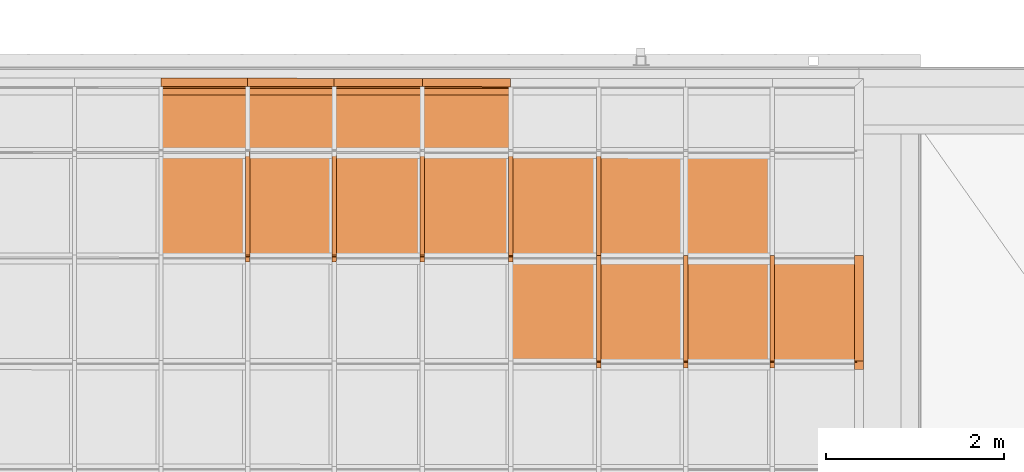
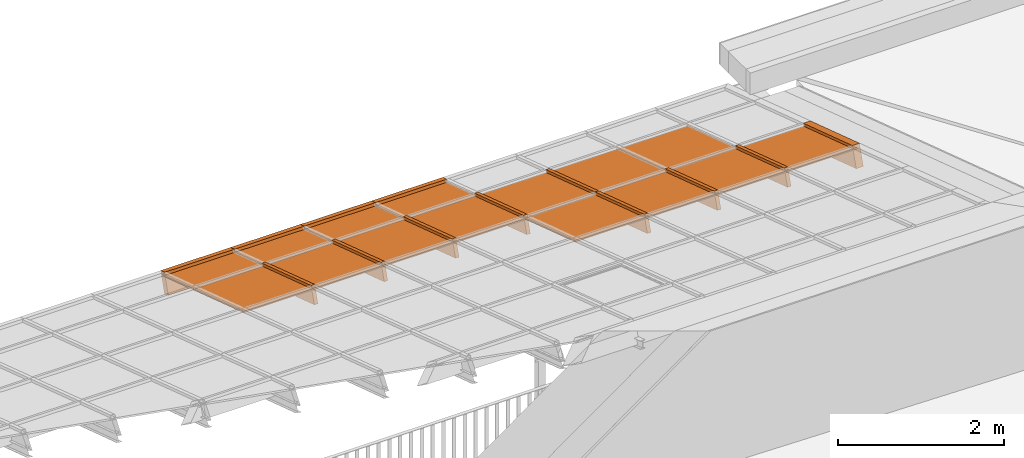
# One storey, part 39 of 47: 28 proxies, 1 element without a shape of its own.
"""IFC2X3 building model written with IfcOpenShell, lengths in millimetres."""

from ifc_helpers import new_model, entity, si_unit, converted_unit, derived_unit, money_unit, direction, frame, origin_with_axes, place, context, subcontext, project, spatial, polyline, outline, extrude, material, material_list, type_object, element, aggregate, save


model = new_model("IFC2X3")

# Units and contexts
model_context = context("Model", 3, precision=1e-05, world=origin_with_axes(), true_north=direction((0.0, 1.0)))
body_context = subcontext(model_context, "Body", "Model", "MODEL_VIEW")
ifc_project = project(units=[si_unit("LENGTHUNIT", "METRE", prefix="MILLI"), si_unit("AREAUNIT", "SQUARE_METRE"), si_unit("VOLUMEUNIT", "CUBIC_METRE"), converted_unit("PLANEANGLEUNIT", "DEGREE", entity("IfcPlaneAngleMeasure", 0.0174532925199), si_unit("PLANEANGLEUNIT", "RADIAN"), dimensions=[0, 0, 0, 0, 0, 0, 0]), si_unit("SOLIDANGLEUNIT", "STERADIAN"), money_unit("EUR"), converted_unit("TIMEUNIT", "Year", entity("IfcTimeMeasure", 31556926.0), si_unit("TIMEUNIT", "SECOND"), dimensions=[0, 0, 1, 0, 0, 0, 0]), si_unit("MASSUNIT", "GRAM", prefix="KILO"), si_unit("THERMODYNAMICTEMPERATUREUNIT", "DEGREE_CELSIUS"), si_unit("LUMINOUSINTENSITYUNIT", "LUMEN"), si_unit("ENERGYUNIT", "JOULE", prefix="MEGA"), derived_unit("THERMALCONDUCTANCEUNIT", [(si_unit("POWERUNIT", "WATT"), 1), (si_unit("LENGTHUNIT", "METRE"), -1), (si_unit("THERMODYNAMICTEMPERATUREUNIT", "KELVIN"), -1)]), derived_unit("SPECIFICHEATCAPACITYUNIT", [(si_unit("ENERGYUNIT", "JOULE"), 1), (si_unit("MASSUNIT", "GRAM", prefix="KILO"), -1), (si_unit("THERMODYNAMICTEMPERATUREUNIT", "KELVIN"), -1)]), derived_unit("MASSDENSITYUNIT", [(si_unit("MASSUNIT", "GRAM", prefix="KILO"), 1), (si_unit("VOLUMEUNIT", "CUBIC_METRE"), -1)])], contexts=[model_context])

# Site, building, storey
site_placement = place(None, origin_with_axes())
site = spatial("IfcSite", under=ifc_project, at=site_placement, Name="Site", CompositionType="ELEMENT")
building_placement = place(site_placement, origin_with_axes())
building = spatial("IfcBuilding", under=site, at=building_placement, Name="Building", CompositionType="ELEMENT")
storey_placement = place(building_placement, frame((0.0, 0.0, 6000.0), z_axis=(0.0, 0.0, 1.0), x_axis=(1.0, 0.0, 0.0)))
storey = spatial("IfcBuildingStorey", under=building, at=storey_placement, Name="KATUSEPLAAN", CompositionType="ELEMENT", Elevation=6000.0)

# Curtain wall, proxies
curtain_wall_type = type_object("IfcCurtainWallType", Name="KK-2", PredefinedType="NOTDEFINED")
curtain_wall_placement = place(storey_placement, frame((71638.1505463, 41358.6055567, 722.550081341), z_axis=(0.0, 0.0, 1.0), x_axis=(1.0, 0.0, 0.0)))
curtain_wall = element("IfcCurtainWall", 1, at=curtain_wall_placement, inside=storey, type_object=curtain_wall_type, Name="Talveaja klaaskatus")
ifc_material_1 = material(Name="Klaas")
building_element_proxy_type_1 = type_object("IfcBuildingElementProxyType", Name="Panel-Dist-163", PredefinedType="NOTDEFINED")
proxy_1_placement = place(curtain_wall_placement, frame((8827.49625898, 4630.47477661, 449.668691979), z_axis=(0.0, 0.0, 1.0), x_axis=(-0.999995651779, 0.00294896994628, 0.0)))
proxy_1 = element("IfcBuildingElementProxy", 2, at=proxy_1_placement, type_object=building_element_proxy_type_1, material=ifc_material_1, Name="Klaas;  Objekti nimi: Built-in CW Panel", context=body_context, shape_type="SweptSolid", body=[
    extrude(outline(polyline([(484.733112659, -631.360496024), (484.747111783, -626.360513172), (489.747075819, -626.374531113), (493.249058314, 623.620579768), (488.249075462, 623.634578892), (488.263093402, 628.634561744), (-484.733080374, 631.360496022), (-484.747098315, 626.360513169), (-489.747081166, 626.374512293), (-493.249044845, -623.62057977), (-488.249061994, -623.634578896), (-488.263079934, -628.634561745), (484.733112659, -631.360496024)])), frame((0.0, -3.12191252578, 9.50019274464), z_axis=(0.0, 0.312191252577, -0.950019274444), x_axis=(1.0, 0.0, 0.0)), (0.0, 0.0, 1.0), 20.0000000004),
])
building_element_proxy_type_2 = type_object("IfcBuildingElementProxyType", Name="Panel-Main-132", PredefinedType="NOTDEFINED")
proxy_2_placement = place(curtain_wall_placement, frame((9800.49584663, 4630.19512138, 448.817678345), z_axis=(0.0, 0.0, 1.0), x_axis=(-0.999995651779, 0.00294896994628, 0.0)))
proxy_2 = element("IfcBuildingElementProxy", 3, at=proxy_2_placement, type_object=building_element_proxy_type_2, material=ifc_material_1, Name="Klaas;  Objekti nimi: Built-in CW Panel", context=body_context, shape_type="SweptSolid", body=[
    extrude(outline(polyline([(484.733112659, -631.360496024), (484.747111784, -626.360513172), (489.74707582, -626.374531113), (493.249058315, 623.620579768), (488.249075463, 623.634578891), (488.263093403, 628.634561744), (-484.733080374, 631.360496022), (-484.747098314, 626.360513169), (-489.747081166, 626.374512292), (-493.249044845, -623.620579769), (-488.249061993, -623.634578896), (-488.263079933, -628.634561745), (484.733112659, -631.360496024)])), frame((1.13686837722e-10, -3.12191252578, 9.50019274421), z_axis=(0.0, 0.312191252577, -0.950019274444), x_axis=(1.0, 0.0, 0.0)), (0.0, 0.0, 1.0), 20.0000000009),
])
building_element_proxy_type_3 = type_object("IfcBuildingElementProxyType", Name="Panel-Dist-164", PredefinedType="NOTDEFINED")
proxy_3_placement = place(curtain_wall_placement, frame((10783.49543, 4629.912592, 447.957918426), z_axis=(0.0, 0.0, 1.0), x_axis=(-0.999995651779, 0.00294896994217, 0.0)))
proxy_3 = element("IfcBuildingElementProxy", 4, at=proxy_3_placement, type_object=building_element_proxy_type_3, material=ifc_material_1, Name="Klaas;  Objekti nimi: Built-in CW Panel", context=body_context, shape_type="SweptSolid", body=[
    extrude(outline(polyline([(494.733053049, -631.388511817), (494.747071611, -626.388532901), (499.747050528, -626.402532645), (503.249019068, 623.592554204), (498.24904015, 623.60655395), (498.263039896, 628.606551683), (-494.733077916, 631.388511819), (-494.747077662, 626.3885329), (-499.747037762, 626.402532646), (-503.249025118, -623.592554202), (-498.249046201, -623.606553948), (-498.263045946, -628.606551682), (494.733053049, -631.388511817)])), frame((0.0, -3.12191252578, 9.50019274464), z_axis=(0.0, 0.312191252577, -0.950019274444), x_axis=(1.0, 0.0, 0.0)), (0.0, 0.0, 1.0), 20.0000000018),
])
building_element_proxy_type_4 = type_object("IfcBuildingElementProxyType", Name="Panel-Main-133", PredefinedType="NOTDEFINED")
proxy_4_placement = place(curtain_wall_placement, frame((11776.4950092, 4629.62718846, 447.089412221), z_axis=(0.0, 0.0, 1.0), x_axis=(-0.999995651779, 0.00294896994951, 0.0)))
proxy_4 = element("IfcBuildingElementProxy", 5, at=proxy_4_placement, type_object=building_element_proxy_type_4, material=ifc_material_1, Name="Klaas;  Objekti nimi: Built-in CW Panel", context=body_context, shape_type="SweptSolid", body=[
    extrude(outline(polyline([(494.733053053, -631.388511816), (494.747071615, -626.3885329), (499.747050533, -626.402532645), (503.249019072, 623.592554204), (498.249040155, 623.606553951), (498.2630399, 628.606551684), (-494.733077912, 631.388511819), (-494.747077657, 626.388532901), (-499.747037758, 626.402532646), (-503.249025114, -623.592554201), (-498.249046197, -623.606553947), (-498.263045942, -628.606551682), (494.733053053, -631.388511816)])), frame((0.0, -3.12191252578, 9.50019274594), z_axis=(0.0, 0.312191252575, -0.950019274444), x_axis=(1.0, 0.0, 0.0)), (0.0, 0.0, 1.0), 20.0000000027),
])
building_element_proxy_type_5 = type_object("IfcBuildingElementProxyType", Name="Panel-Dist-165", PredefinedType="NOTDEFINED")
proxy_5_placement = place(curtain_wall_placement, frame((12769.4945884, 4629.34178493, 446.220906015), z_axis=(0.0, 0.0, 1.0), x_axis=(-0.999995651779, 0.00294896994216, 0.0)))
proxy_5 = element("IfcBuildingElementProxy", 6, at=proxy_5_placement, type_object=building_element_proxy_type_5, material=ifc_material_1, Name="Klaas;  Objekti nimi: Built-in CW Panel", context=body_context, shape_type="SweptSolid", body=[
    extrude(outline(polyline([(494.733053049, -631.388511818), (494.747071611, -626.388532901), (499.747050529, -626.402532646), (503.249019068, 623.592554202), (498.249040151, 623.606553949), (498.263039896, 628.606551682), (-494.733077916, 631.388511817), (-494.747077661, 626.388532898), (-499.747037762, 626.402532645), (-503.249025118, -623.592554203), (-498.249046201, -623.606553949), (-498.263045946, -628.606551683), (494.733053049, -631.388511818)])), frame((1.13686837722e-10, -3.12191252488, 9.50019274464), z_axis=(0.0, 0.312191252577, -0.950019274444), x_axis=(1.0, 0.0, 0.0)), (0.0, 0.0, 1.0), 20.0000000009),
])
building_element_proxy_type_6 = type_object("IfcBuildingElementProxyType", Name="Panel-Main-134", PredefinedType="NOTDEFINED")
proxy_6_placement = place(curtain_wall_placement, frame((13753.9941712, 4629.05882442, 445.359834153), z_axis=(0.0, 0.0, 1.0), x_axis=(-0.999995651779, 0.00294896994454, 0.0)))
proxy_6 = element("IfcBuildingElementProxy", 7, at=proxy_6_placement, type_object=building_element_proxy_type_6, material=ifc_material_1, Name="Klaas;  Objekti nimi: Built-in CW Panel", context=body_context, shape_type="SweptSolid", body=[
    extrude(outline(polyline([(486.233087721, -631.364698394), (486.247105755, -626.364719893), (491.247084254, -626.378719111), (494.749052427, 623.616376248), (489.749073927, 623.630375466), (489.763073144, 628.630353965), (-486.233095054, 631.364698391), (-486.247094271, 626.364719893), (-491.247091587, 626.37871911), (-494.749059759, -623.616376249), (-489.74908126, -623.630375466), (-489.763080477, -628.630353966), (486.233087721, -631.364698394)])), frame((1.13686837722e-10, -3.12191252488, 9.50019274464), z_axis=(0.0, 0.312191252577, -0.950019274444), x_axis=(1.0, 0.0, 0.0)), (0.0, 0.0, 1.0), 20.0000000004),
])
building_element_proxy_type_7 = type_object("IfcBuildingElementProxyType", Name="Panel-Dist-179", PredefinedType="NOTDEFINED")
proxy_7_placement = place(curtain_wall_placement, frame((14729.9937576, 4628.77830695, 444.506196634), z_axis=(0.0, 0.0, 1.0), x_axis=(-0.999995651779, 0.00294896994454, 0.0)))
proxy_7 = element("IfcBuildingElementProxy", 8, at=proxy_7_placement, type_object=building_element_proxy_type_7, material=ifc_material_1, Name="Klaas;  Objekti nimi: Built-in CW Panel", context=body_context, shape_type="SweptSolid", body=[
    extrude(outline(polyline([(486.233087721, -631.364698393), (486.247105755, -626.364719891), (491.247084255, -626.378719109), (494.749052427, 623.61637625), (489.749073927, 623.630375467), (489.763073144, 628.630353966), (-486.233095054, 631.364698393), (-486.247094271, 626.364719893), (-491.247091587, 626.37871911), (-494.749059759, -623.616376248), (-489.749081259, -623.630375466), (-489.763080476, -628.630353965), (486.233087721, -631.364698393)])), frame((0.0, -3.12191252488, 9.50019274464), z_axis=(0.0, 0.312191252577, -0.950019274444), x_axis=(1.0, 0.0, 0.0)), (0.0, 0.0, 1.0), 20.0000000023),
])
building_element_proxy_type_8 = type_object("IfcBuildingElementProxyType", Name="Panel-Main-145", PredefinedType="NOTDEFINED")
proxy_8_placement = place(curtain_wall_placement, frame((12769.4945884, 3441.81718861, 836.45844027), z_axis=(0.0, 0.0, 1.0), x_axis=(-0.999995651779, 0.00294896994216, 0.0)))
proxy_8 = element("IfcBuildingElementProxy", 9, at=proxy_8_placement, type_object=building_element_proxy_type_8, material=ifc_material_1, Name="Klaas;  Objekti nimi: Built-in CW Panel", context=body_context, shape_type="SweptSolid", body=[
    extrude(outline(polyline([(494.733053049, -631.388511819), (494.747071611, -626.388532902), (499.747050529, -626.402532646), (503.249019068, 623.592554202), (498.249040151, 623.606553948), (498.263039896, 628.606551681), (-494.733077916, 631.388511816), (-494.747077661, 626.388532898), (-499.747037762, 626.402532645), (-503.249025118, -623.592554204), (-498.249046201, -623.606553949), (-498.263045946, -628.606551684), (494.733053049, -631.388511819)])), frame((1.13686837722e-10, -3.12191252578, 9.50019274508), z_axis=(0.0, 0.312191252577, -0.950019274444), x_axis=(1.0, 0.0, 0.0)), (0.0, 0.0, 1.0), 20.0000000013),
])
building_element_proxy_type_9 = type_object("IfcBuildingElementProxyType", Name="Panel-Dist-177", PredefinedType="NOTDEFINED")
proxy_9_placement = place(curtain_wall_placement, frame((13753.9941712, 3441.53422811, 835.597368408), z_axis=(0.0, 0.0, 1.0), x_axis=(-0.999995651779, 0.00294896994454, 0.0)))
proxy_9 = element("IfcBuildingElementProxy", 10, at=proxy_9_placement, type_object=building_element_proxy_type_9, material=ifc_material_1, Name="Klaas;  Objekti nimi: Built-in CW Panel", context=body_context, shape_type="SweptSolid", body=[
    extrude(outline(polyline([(486.233087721, -631.364698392), (486.247105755, -626.364719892), (491.247084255, -626.378719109), (494.749052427, 623.616376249), (489.749073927, 623.630375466), (489.763073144, 628.630353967), (-486.233095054, 631.364698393), (-486.247094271, 626.364719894), (-491.247091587, 626.378719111), (-494.749059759, -623.616376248), (-489.749081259, -623.630375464), (-489.763080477, -628.630353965), (486.233087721, -631.364698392)])), frame((1.13686837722e-10, -3.12191252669, 9.50019274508), z_axis=(0.0, 0.312191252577, -0.950019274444), x_axis=(1.0, 0.0, 0.0)), (0.0, 0.0, 1.0), 20.0000000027),
])
building_element_proxy_type_10 = type_object("IfcBuildingElementProxyType", Name="Panel-Main-146", PredefinedType="NOTDEFINED")
proxy_10_placement = place(curtain_wall_placement, frame((14729.9937576, 3441.25371063, 834.743730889), z_axis=(0.0, 0.0, 1.0), x_axis=(-0.999995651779, 0.00294896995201, 0.0)))
proxy_10 = element("IfcBuildingElementProxy", 11, at=proxy_10_placement, type_object=building_element_proxy_type_10, material=ifc_material_1, Name="Klaas;  Objekti nimi: Built-in CW Panel", context=body_context, shape_type="SweptSolid", body=[
    extrude(outline(polyline([(486.233087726, -631.364698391), (486.247105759, -626.364719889), (491.247084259, -626.378719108), (494.749052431, 623.616376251), (489.749073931, 623.630375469), (489.763073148, 628.630353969), (-486.23309505, 631.364698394), (-486.247094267, 626.364719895), (-491.247091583, 626.378719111), (-494.749059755, -623.616376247), (-489.749081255, -623.630375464), (-489.763080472, -628.630353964), (486.233087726, -631.364698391)])), frame((0.0, -3.12191252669, 9.50019274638), z_axis=(0.0, 0.312191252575, -0.950019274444), x_axis=(1.0, 0.0, 0.0)), (0.0, 0.0, 1.0), 20.0000000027),
])
building_element_proxy_type_11 = type_object("IfcBuildingElementProxyType", Name="Panel-Main-100", PredefinedType="NOTDEFINED")
proxy_11_placement = place(curtain_wall_placement, frame((15704.4933446, 3440.97362428, 833.891405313), z_axis=(0.0, 0.0, 1.0), x_axis=(-0.999995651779, 0.00294896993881, 0.0)))
proxy_11 = element("IfcBuildingElementProxy", 12, at=proxy_11_placement, type_object=building_element_proxy_type_11, material=ifc_material_1, Name="Klaas;  Objekti nimi: Built-in CW Panel", context=body_context, shape_type="SweptSolid", body=[
    extrude(outline(polyline([(484.733112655, -631.360496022), (484.747111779, -626.360513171), (489.747075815, -626.374531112), (493.24905831, 623.620579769), (488.249094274, 623.634578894), (488.263093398, 628.634561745), (-484.733080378, 631.360496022), (-484.747098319, 626.360513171), (-464.747166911, 626.304479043), (-468.24913059, -623.690613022), (-488.249061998, -623.634578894), (-488.263079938, -628.634561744), (484.733112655, -631.360496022)])), frame((0.0, -3.12191252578, 9.50019274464), z_axis=(0.0, 0.312191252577, -0.950019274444), x_axis=(1.0, 0.0, 0.0)), (0.0, 0.0, 1.0), 20.0000000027),
])
building_element_proxy_type_12 = type_object("IfcBuildingElementProxyType", Name="Panel-Main-116", PredefinedType="NOTDEFINED")
proxy_12_placement = place(curtain_wall_placement, frame((8827.49625898, 5601.74592937, 130.495126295), z_axis=(0.0, 0.0, 1.0), x_axis=(-0.999995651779, 0.00294896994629, 0.0)))
proxy_12 = element("IfcBuildingElementProxy", 13, at=proxy_12_placement, type_object=building_element_proxy_type_12, material=ifc_material_1, Name="Klaas;  Objekti nimi: Built-in CW Panel", context=body_context, shape_type="SweptSolid", body=[
    extrude(outline(polyline([(485.370822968, -403.730890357), (485.384828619, -398.730917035), (490.384801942, -398.744922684), (492.611333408, 395.990982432), (487.611360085, 396.004988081), (487.555322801, 376.005065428), (-485.440851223, 378.730999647), (-485.384828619, 398.730922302), (-490.384801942, 398.744927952), (-492.611333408, -395.990977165), (-487.611360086, -396.004982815), (-487.625365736, -401.004956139), (485.370822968, -403.730890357)])), frame((0.0, -3.12191252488, 9.50019274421), z_axis=(0.0, 0.312191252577, -0.950019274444), x_axis=(1.0, 0.0, 0.0)), (0.0, 0.0, 1.0), 20.0000000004),
])
building_element_proxy_type_13 = type_object("IfcBuildingElementProxyType", Name="Panel-Main-149", PredefinedType="NOTDEFINED")
proxy_13_placement = place(curtain_wall_placement, frame((10783.49543, 5601.18374476, 128.784352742), z_axis=(0.0, 0.0, 1.0), x_axis=(-0.999995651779, 0.00294896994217, 0.0)))
proxy_13 = element("IfcBuildingElementProxy", 14, at=proxy_13_placement, type_object=building_element_proxy_type_13, material=ifc_material_1, Name="Klaas;  Objekti nimi: Built-in CW Panel", context=body_context, shape_type="SweptSolid", body=[
    extrude(outline(polyline([(495.370776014, -403.758920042), (495.384796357, -398.758930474), (500.384770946, -398.772950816), (502.611294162, 395.962958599), (497.611319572, 395.976963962), (497.55528314, 375.977050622), (-495.440832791, 378.75899509), (-495.384796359, 398.758938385), (-500.38475597, 398.772943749), (-502.611294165, -395.962965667), (-497.611304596, -395.976971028), (-497.625324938, -400.976960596), (495.370776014, -403.758920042)])), frame((0.0, -3.12191252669, 9.50019274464), z_axis=(0.0, 0.312191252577, -0.950019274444), x_axis=(1.0, 0.0, 0.0)), (0.0, 0.0, 1.0), 20.0000000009),
])
building_element_proxy_type_14 = type_object("IfcBuildingElementProxyType", Name="Panel-Main-078", PredefinedType="NOTDEFINED")
proxy_14_placement = place(curtain_wall_placement, frame((11776.4950092, 5600.89834122, 127.915846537), z_axis=(0.0, 0.0, 1.0), x_axis=(-0.999995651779, 0.0029489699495, 0.0)))
proxy_14 = element("IfcBuildingElementProxy", 15, at=proxy_14_placement, type_object=building_element_proxy_type_14, material=ifc_material_1, Name="Klaas;  Objekti nimi: Built-in CW Panel", context=body_context, shape_type="SweptSolid", body=[
    extrude(outline(polyline([(495.370776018, -403.758920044), (495.38479636, -398.758930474), (500.38477095, -398.772950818), (502.611294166, 395.962958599), (497.611319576, 395.976963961), (497.555283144, 375.977050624), (-495.440832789, 378.758995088), (-495.384796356, 398.758938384), (-500.384755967, 398.772943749), (-502.611294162, -395.962965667), (-497.611304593, -395.976971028), (-497.625324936, -400.976960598), (495.370776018, -403.758920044)])), frame((0.0, -3.12191252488, 9.50019274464), z_axis=(0.0, 0.312191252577, -0.950019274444), x_axis=(1.0, 0.0, 0.0)), (0.0, 0.0, 1.0), 20.0000000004),
])
building_element_proxy_type_15 = type_object("IfcBuildingElementProxyType", Name="Panel-Main-077", PredefinedType="NOTDEFINED")
proxy_15_placement = place(curtain_wall_placement, frame((9800.49584663, 5601.46627414, 129.644112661), z_axis=(0.0, 0.0, 1.0), x_axis=(-0.999995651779, 0.00294896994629, 0.0)))
proxy_15 = element("IfcBuildingElementProxy", 16, at=proxy_15_placement, type_object=building_element_proxy_type_15, material=ifc_material_1, Name="Klaas;  Objekti nimi: Built-in CW Panel", context=body_context, shape_type="SweptSolid", body=[
    extrude(outline(polyline([(485.370822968, -403.730890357), (485.384828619, -398.730917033), (490.384801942, -398.744922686), (492.611333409, 395.990982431), (487.611360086, 396.004988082), (487.555322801, 376.005065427), (-485.440851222, 378.730999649), (-485.384828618, 398.730922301), (-490.384801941, 398.744927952), (-492.611333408, -395.990977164), (-487.611360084, -396.004982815), (-487.625365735, -401.004956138), (485.370822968, -403.730890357)])), frame((1.13686837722e-10, -3.12191252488, 9.50019274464), z_axis=(0.0, 0.312191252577, -0.950019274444), x_axis=(1.0, 0.0, 0.0)), (0.0, 0.0, 1.0), 20.0000000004),
])
ifc_material_2 = material(Name="Alumiinium (1)")
ifc_material_list = material_list([ifc_material_2, ifc_material_2])
building_element_proxy_type_16 = type_object("IfcBuildingElementProxyType", Name="Frame-Mll-233", PredefinedType="NOTDEFINED")
proxy_16_placement = place(curtain_wall_placement, frame((9313.99605281, 5224.09724716, 254.124418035), z_axis=(0.0, -0.950019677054, 0.312190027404), x_axis=(-0.999999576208, 0.000287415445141, 0.000874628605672)))
proxy_16 = element("IfcBuildingElementProxy", 17, at=proxy_16_placement, type_object=building_element_proxy_type_16, material=ifc_material_list, Name="Alumiinium (1);  Objekti nimi: Frame 22", context=body_context, shape_type="SweptSolid", body=[
    extrude(outline(polyline([(25.0091958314, 9.9769796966), (25.1841179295, 199.976899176), (-24.8158608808, 200.022931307), (-24.9907829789, 10.0230118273), (25.0091958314, 9.9769796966)])), frame((0.0, 0.0, -9.09494701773e-10), z_axis=(0.0, 0.0, 1.0), x_axis=(0.999999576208, 0.000920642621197, 0.0)), (0.0, 0.0, 1.0), 1250.0),
    extrude(outline(polyline([(-25.0091958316, -9.97697969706), (-25.0460215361, -49.9769627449), (24.9539572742, -50.0229948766), (24.9907829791, -10.0230118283), (-25.0091958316, -9.97697969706)])), frame((0.0, 0.0, -1.81898940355e-09), z_axis=(0.0, 0.0, 1.0), x_axis=(0.999999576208, 0.000920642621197, 0.0)), (0.0, 0.0, 1.0), 1250.0),
])
building_element_proxy_type_17 = type_object("IfcBuildingElementProxyType", Name="Frame-Mll-234", PredefinedType="NOTDEFINED")
proxy_17_placement = place(curtain_wall_placement, frame((10286.9956405, 5223.81759193, 253.273404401), z_axis=(0.0, -0.950019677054, 0.312190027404), x_axis=(-0.999999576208, 0.000287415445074, 0.000874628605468)))
proxy_17 = element("IfcBuildingElementProxy", 18, at=proxy_17_placement, type_object=building_element_proxy_type_17, material=ifc_material_list, Name="Alumiinium (1);  Objekti nimi: Frame 22", context=body_context, shape_type="SweptSolid", body=[
    extrude(outline(polyline([(25.0091958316, 9.97697969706), (25.1841179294, 199.976899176), (-24.8158608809, 200.022931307), (-24.9907829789, 10.0230118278), (25.0091958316, 9.97697969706)])), frame((0.0, 0.0, 0.0), z_axis=(0.0, 0.0, 1.0), x_axis=(0.999999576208, 0.000920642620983, 0.0)), (0.0, 0.0, 1.0), 1250.0),
    extrude(outline(polyline([(-25.0091958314, -9.9769796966), (-25.0460215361, -49.9769627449), (24.9539572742, -50.0229948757), (24.990782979, -10.0230118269), (-25.0091958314, -9.9769796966)])), frame((0.0, 0.0, 0.0), z_axis=(0.0, 0.0, 1.0), x_axis=(0.999999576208, 0.000920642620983, 0.0)), (0.0, 0.0, 1.0), 1250.0),
])
building_element_proxy_type_18 = type_object("IfcBuildingElementProxyType", Name="Frame-Mll-235", PredefinedType="NOTDEFINED")
proxy_18_placement = place(curtain_wall_placement, frame((11279.9952196, 5223.53218839, 252.404898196), z_axis=(0.0, -0.950019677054, 0.312190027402), x_axis=(-0.999999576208, 0.000287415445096, 0.00087462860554)))
proxy_18 = element("IfcBuildingElementProxy", 19, at=proxy_18_placement, type_object=building_element_proxy_type_18, material=ifc_material_list, Name="Alumiinium (1);  Objekti nimi: Frame 22", context=body_context, shape_type="SweptSolid", body=[
    extrude(outline(polyline([(25.0091958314, 9.97697969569), (25.1841179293, 199.976899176), (-24.8158608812, 200.022931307), (-24.9907829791, 10.0230118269), (25.0091958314, 9.97697969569)])), frame((0.0, 0.0, -9.09494701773e-10), z_axis=(0.0, 0.0, 1.0), x_axis=(0.999999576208, 0.000920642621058, 0.0)), (0.0, 0.0, 1.0), 1250.00000001),
    extrude(outline(polyline([(-25.0091958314, -9.9769796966), (-25.0460215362, -49.9769627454), (24.9539572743, -50.0229948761), (24.9907829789, -10.0230118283), (-25.0091958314, -9.9769796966)])), frame((0.0, 0.0, -9.09494701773e-10), z_axis=(0.0, 0.0, 1.0), x_axis=(0.999999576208, 0.000920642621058, 0.0)), (0.0, 0.0, 1.0), 1250.00000001),
])
building_element_proxy_type_19 = type_object("IfcBuildingElementProxyType", Name="Frame-Mll-236", PredefinedType="NOTDEFINED")
proxy_19_placement = place(curtain_wall_placement, frame((12272.9947988, 5223.24678485, 251.536391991), z_axis=(0.0, -0.950019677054, 0.312190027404), x_axis=(-0.999999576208, 0.000287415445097, 0.000874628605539)))
proxy_19 = element("IfcBuildingElementProxy", 20, at=proxy_19_placement, type_object=building_element_proxy_type_19, material=ifc_material_list, Name="Alumiinium (1);  Objekti nimi: Frame 22", context=body_context, shape_type="SweptSolid", body=[
    extrude(outline(polyline([(25.0091958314, 9.9769796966), (25.1841179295, 199.976899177), (-24.8158608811, 200.022931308), (-24.990782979, 10.0230118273), (25.0091958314, 9.9769796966)])), frame((0.0, 0.0, 0.0), z_axis=(0.0, 0.0, 1.0), x_axis=(0.999999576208, 0.000920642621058, 0.0)), (0.0, 0.0, 1.0), 1250.0),
    extrude(outline(polyline([(-25.0091958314, -9.9769796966), (-25.0460215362, -49.9769627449), (24.9539572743, -50.0229948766), (24.990782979, -10.0230118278), (-25.0091958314, -9.9769796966)])), frame((0.0, 0.0, 0.0), z_axis=(0.0, 0.0, 1.0), x_axis=(0.999999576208, 0.000920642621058, 0.0)), (0.0, 0.0, 1.0), 1250.0),
])
building_element_proxy_type_20 = type_object("IfcBuildingElementProxyType", Name="Frame-Mll-237", PredefinedType="NOTDEFINED")
proxy_20_placement = place(curtain_wall_placement, frame((13265.994378, 5222.96138132, 250.667885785), z_axis=(0.0, -0.950019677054, 0.312190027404), x_axis=(-0.999999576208, 0.00028741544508, 0.000874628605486)))
proxy_20 = element("IfcBuildingElementProxy", 21, at=proxy_20_placement, type_object=building_element_proxy_type_20, material=ifc_material_list, Name="Alumiinium (1);  Objekti nimi: Frame 22", context=body_context, shape_type="SweptSolid", body=[
    extrude(outline(polyline([(25.0091958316, 9.97697969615), (25.1841179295, 199.976899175), (-24.8158608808, 200.022931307), (-24.9907829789, 10.0230118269), (25.0091958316, 9.97697969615)])), frame((0.0, -4.54747350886e-10, -2.72848410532e-09), z_axis=(0.0, 0.0, 1.0), x_axis=(0.999999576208, 0.000920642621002, 0.0)), (0.0, 0.0, 1.0), 1250.0),
    extrude(outline(polyline([(-25.0091958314, -9.97697969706), (-25.0460215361, -49.9769627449), (24.9539572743, -50.0229948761), (24.990782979, -10.0230118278), (-25.0091958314, -9.97697969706)])), frame((0.0, -4.54747350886e-10, -2.72848410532e-09), z_axis=(0.0, 0.0, 1.0), x_axis=(0.999999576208, 0.000920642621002, 0.0)), (0.0, 0.0, 1.0), 1250.0),
])
building_element_proxy_type_21 = type_object("IfcBuildingElementProxyType", Name="Frame-Mll-260", PredefinedType="NOTDEFINED")
proxy_21_placement = place(curtain_wall_placement, frame((13265.994378, 4035.436785, 640.90542004), z_axis=(0.0, -0.950019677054, 0.312190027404), x_axis=(-0.999999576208, 0.00028741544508, 0.000874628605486)))
proxy_21 = element("IfcBuildingElementProxy", 22, at=proxy_21_placement, type_object=building_element_proxy_type_21, material=ifc_material_list, Name="Alumiinium (1);  Objekti nimi: Frame 22", context=body_context, shape_type="SweptSolid", body=[
    extrude(outline(polyline([(25.0091958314, 9.97697969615), (25.1841179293, 199.976899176), (-24.8158608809, 200.022931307), (-24.9907829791, 10.0230118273), (25.0091958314, 9.97697969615)])), frame((0.0, 4.54747350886e-10, -2.72848410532e-09), z_axis=(0.0, 0.0, 1.0), x_axis=(0.999999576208, 0.000920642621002, 0.0)), (0.0, 0.0, 1.0), 1250.0),
    extrude(outline(polyline([(-25.0091958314, -9.97697969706), (-25.0460215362, -49.9769627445), (24.9539572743, -50.0229948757), (24.9907829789, -10.0230118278), (-25.0091958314, -9.97697969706)])), frame((0.0, 0.0, -3.63797880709e-09), z_axis=(0.0, 0.0, 1.0), x_axis=(0.999999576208, 0.000920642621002, 0.0)), (0.0, 0.0, 1.0), 1250.0),
])
building_element_proxy_type_22 = type_object("IfcBuildingElementProxyType", Name="Frame-Mll-261", PredefinedType="NOTDEFINED")
proxy_22_placement = place(curtain_wall_placement, frame((14241.9939644, 4035.15626753, 640.051782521), z_axis=(0.0, -0.950019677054, 0.312190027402), x_axis=(-0.999999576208, 0.000287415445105, 0.000874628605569)))
proxy_22 = element("IfcBuildingElementProxy", 23, at=proxy_22_placement, type_object=building_element_proxy_type_22, material=ifc_material_list, Name="Alumiinium (1);  Objekti nimi: Frame 22", context=body_context, shape_type="SweptSolid", body=[
    extrude(outline(polyline([(25.0091958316, 9.9769796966), (25.1841179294, 199.976899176), (-24.8158608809, 200.022931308), (-24.9907829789, 10.0230118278), (25.0091958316, 9.9769796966)])), frame((0.0, 0.0, -1.81898940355e-09), z_axis=(0.0, 0.0, 1.0), x_axis=(0.999999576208, 0.000920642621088, 0.0)), (0.0, 0.0, 1.0), 1250.00000001),
    extrude(outline(polyline([(-25.0091958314, -9.9769796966), (-25.0460215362, -49.9769627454), (24.9539572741, -50.0229948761), (24.9907829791, -10.0230118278), (-25.0091958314, -9.9769796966)])), frame((0.0, 0.0, -1.81898940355e-09), z_axis=(0.0, 0.0, 1.0), x_axis=(0.999999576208, 0.000920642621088, 0.0)), (0.0, 0.0, 1.0), 1250.00000001),
])
building_element_proxy_type_23 = type_object("IfcBuildingElementProxyType", Name="Frame-Bnd-635", PredefinedType="NOTDEFINED")
proxy_23_placement = place(curtain_wall_placement, frame((16190.9931384, 4034.59609483, 638.347131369), z_axis=(0.0, -0.950019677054, 0.312190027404), x_axis=(-0.999999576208, 0.000287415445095, 0.000874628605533)))
proxy_23 = element("IfcBuildingElementProxy", 24, at=proxy_23_placement, type_object=building_element_proxy_type_23, material=ifc_material_2, Name="Alumiinium (1);  Objekti nimi: Built-in Frame", context=body_context, shape_type="SweptSolid", body=[
    extrude(outline(polyline([(20.0091979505, 9.98158290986), (50.0091852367, 9.95396363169), (50.2301394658, 249.953861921), (-49.769818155, 250.045926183), (-50.0460109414, -49.9539466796), (49.9539466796, -50.0460109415), (49.9907723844, -10.0460278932), (19.9907850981, -10.0184086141), (20.0091979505, 9.98158290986)])), frame((0.0, 0.0, -9.09494701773e-10), z_axis=(0.0, 0.0, 1.0), x_axis=(0.999999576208, 0.000920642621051, 0.0)), (0.0, 0.0, 1.0), 1250.0),
])
building_element_proxy_type_24 = type_object("IfcBuildingElementProxyType", Name="Frame-Mll-262", PredefinedType="NOTDEFINED")
proxy_24_placement = place(curtain_wall_placement, frame((15217.9935507, 4034.87575005, 639.198145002), z_axis=(0.0, -0.950019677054, 0.312190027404), x_axis=(-0.999999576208, 0.000287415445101, 0.000874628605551)))
proxy_24 = element("IfcBuildingElementProxy", 25, at=proxy_24_placement, type_object=building_element_proxy_type_24, material=ifc_material_list, Name="Alumiinium (1);  Objekti nimi: Frame 22", context=body_context, shape_type="SweptSolid", body=[
    extrude(outline(polyline([(25.0091958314, 9.97697969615), (25.1841179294, 199.976899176), (-24.8158608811, 200.022931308), (-24.990782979, 10.0230118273), (25.0091958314, 9.97697969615)])), frame((0.0, 0.0, 0.0), z_axis=(0.0, 0.0, 1.0), x_axis=(0.999999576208, 0.00092064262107, 0.0)), (0.0, 0.0, 1.0), 1250.0),
    extrude(outline(polyline([(-25.0091958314, -9.97697969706), (-25.0460215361, -49.9769627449), (24.9539572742, -50.0229948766), (24.9907829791, -10.0230118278), (-25.0091958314, -9.97697969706)])), frame((0.0, 0.0, -1.81898940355e-09), z_axis=(0.0, 0.0, 1.0), x_axis=(0.999999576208, 0.00092064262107, 0.0)), (0.0, 0.0, 1.0), 1250.0),
])
building_element_proxy_type_25 = type_object("IfcBuildingElementProxyType", Name="Frame-Bnd-628", PredefinedType="NOTDEFINED")
proxy_25_placement = place(curtain_wall_placement, frame((11279.9952196, 5978.54989759, 4.29530108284), z_axis=(0.999999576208, -0.000287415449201, -0.000874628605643), x_axis=(0.0, -0.950019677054, 0.312190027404)))
proxy_25 = element("IfcBuildingElementProxy", 26, at=proxy_25_placement, type_object=building_element_proxy_type_25, material=ifc_material_2, Name="Alumiinium (1);  Objekti nimi: Built-in Frame", context=body_context, shape_type="SweptSolid", body=[
    extrude(outline(polyline([(22.1222942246, 3.25639344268), (50.6228833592, -6.10931096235), (125.548518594, 221.895402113), (30.5465548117, 253.114416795), (-63.1104892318, -31.8914745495), (31.8914745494, -63.1104892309), (44.379080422, -25.1097037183), (15.8784912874, -15.743999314), (22.1222942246, 3.25639344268)])), frame((0.0, 0.0, -4.54747350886e-10), z_axis=(0.0, 0.0, 1.0), x_axis=(0.950019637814, 0.312190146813, 0.0)), (0.0, 0.0, 1.0), 993.000000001),
])
building_element_proxy_type_26 = type_object("IfcBuildingElementProxyType", Name="Frame-Bnd-627", PredefinedType="NOTDEFINED")
proxy_26_placement = place(curtain_wall_placement, frame((10286.9956405, 5978.83530112, 5.16380728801), z_axis=(0.999999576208, -0.000287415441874, -0.000874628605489), x_axis=(0.0, -0.950019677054, 0.312190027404)))
proxy_26 = element("IfcBuildingElementProxy", 27, at=proxy_26_placement, type_object=building_element_proxy_type_26, material=ifc_material_2, Name="Alumiinium (1);  Objekti nimi: Built-in Frame", context=body_context, shape_type="SweptSolid", body=[
    extrude(outline(polyline([(22.1222942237, 3.25639344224), (50.6228833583, -6.10931096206), (125.548518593, 221.895402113), (30.5465548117, 253.114416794), (-63.1104892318, -31.8914745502), (31.8914745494, -63.1104892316), (44.379080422, -25.1097037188), (15.8784912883, -15.743999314), (22.1222942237, 3.25639344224)])), frame((0.0, 0.0, -4.54747350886e-10), z_axis=(0.0, 0.0, 1.0), x_axis=(0.950019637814, 0.312190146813, 0.0)), (0.0, 0.0, 1.0), 993.000000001),
])
building_element_proxy_type_27 = type_object("IfcBuildingElementProxyType", Name="Frame-Bnd-626", PredefinedType="NOTDEFINED")
proxy_27_placement = place(curtain_wall_placement, frame((9313.99605281, 5979.11495635, 6.01482092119), z_axis=(0.999999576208, -0.000287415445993, -0.000874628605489), x_axis=(0.0, -0.950019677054, 0.312190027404)))
proxy_27 = element("IfcBuildingElementProxy", 28, at=proxy_27_placement, type_object=building_element_proxy_type_27, material=ifc_material_2, Name="Alumiinium (1);  Objekti nimi: Built-in Frame", context=body_context, shape_type="SweptSolid", body=[
    extrude(outline(polyline([(22.1222942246, 3.25639344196), (50.6228833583, -6.10931096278), (125.548518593, 221.895402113), (30.5465548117, 253.114416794), (-63.1104892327, -31.8914745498), (31.8914745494, -63.1104892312), (44.3790804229, -25.109703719), (15.8784912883, -15.7439993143), (22.1222942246, 3.25639344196)])), frame((0.0, 0.0, -4.54747350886e-10), z_axis=(0.0, 0.0, 1.0), x_axis=(0.950019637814, 0.312190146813, 0.0)), (0.0, 0.0, 1.0), 973.000000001),
])
building_element_proxy_type_28 = type_object("IfcBuildingElementProxyType", Name="Frame-Bnd-625", PredefinedType="NOTDEFINED")
proxy_28_placement = place(curtain_wall_placement, frame((8340.99646516, 5979.39461158, 6.86583455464), z_axis=(0.999999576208, -0.000287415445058, -0.000874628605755), x_axis=(0.0, -0.950019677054, 0.312190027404)))
proxy_28 = element("IfcBuildingElementProxy", 29, at=proxy_28_placement, type_object=building_element_proxy_type_28, material=ifc_material_2, Name="Alumiinium (1);  Objekti nimi: Built-in Frame", context=body_context, shape_type="SweptSolid", body=[
    extrude(outline(polyline([(22.1222942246, 3.25639344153), (50.6228833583, -6.10931096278), (125.548518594, 221.895402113), (30.5465548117, 253.114416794), (-63.11048923, -31.8914745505), (31.8914745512, -63.1104892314), (44.3790804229, -25.109703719), (15.8784912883, -15.7439993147), (22.1222942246, 3.25639344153)])), frame((0.0, 0.0, -2.27373675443e-10), z_axis=(0.0, 0.0, 1.0), x_axis=(0.950019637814, 0.312190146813, 0.0)), (0.0, 0.0, 1.0), 973.0),
])
aggregate(curtain_wall, [proxy_1, proxy_2, proxy_3, proxy_4, proxy_5, proxy_6, proxy_7, proxy_8, proxy_9, proxy_10, proxy_11, proxy_12, proxy_13, proxy_14, proxy_15, proxy_16, proxy_17, proxy_18, proxy_19, proxy_20, proxy_21, proxy_22, proxy_23, proxy_24, proxy_25, proxy_26, proxy_27, proxy_28])

save(model, "model.ifc")
